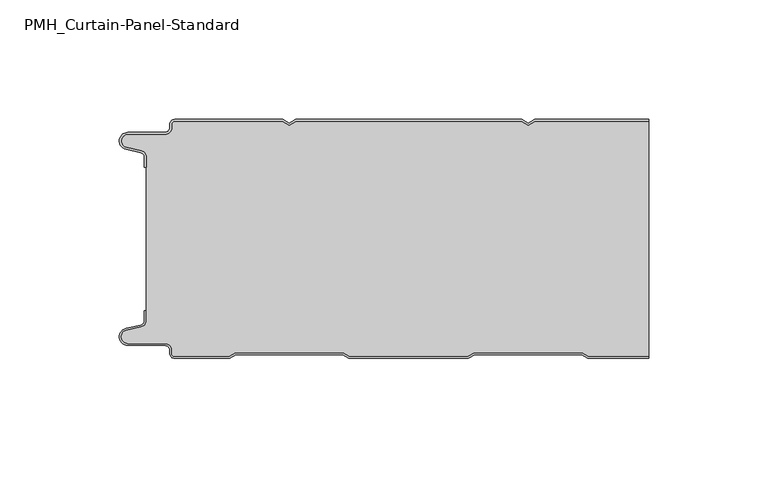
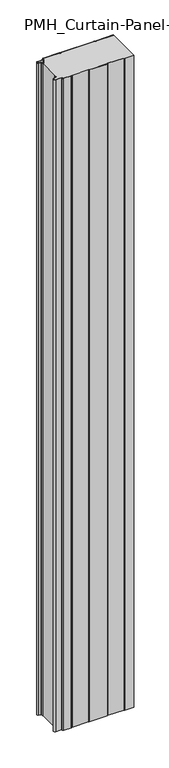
"""IFC4 building model written with IfcOpenShell, lengths in millimetres: plate geometry, PMH_Curtain-Panel-Standard : ACH_PMH_Acoustic-Sectioning-Panel_100M."""

from ifc_helpers import new_model, si_unit, point, frame_2d, origin, origin_with_axes, place, context, project, spatial, polyline, circle_curve, trimmed, segment, composite_curve, outline, extrude, source, transform, mapped, element, save


def pmh_curtain_panel_standard_863052c6(model_context):
    return source(origin(), model_context, "Body", "SweptSolid", [
        extrude(outline(composite_curve([segment(trimmed(circle_curve(frame_2d((-102.0119739, -15.878557)), 2.0), [point((-100.0119739, -15.878557))], [point((-101.5620718, -13.9298169))], True, "CARTESIAN"), True, "CONTINUOUS"), segment(polyline([(-101.5620718, -13.9298169), (-107.7217978, -12.507732)]), True, "CONTINUOUS"), segment(trimmed(circle_curve(frame_2d((-106.9119739, -9.0)), 3.6), [point((-107.7217978, -12.507732))], [point((-106.9119739, -5.4))], False, "CARTESIAN"), True, "CONTINUOUS"), segment(polyline([(-106.9119739, -5.4), (-91.4119739, -5.4)]), True, "CONTINUOUS"), segment(trimmed(circle_curve(frame_2d((-91.4119739, -3.4)), 2.0), [point((-91.4119739, -5.4))], [point((-89.4119739, -3.4))], True, "CARTESIAN"), True, "CONTINUOUS"), segment(polyline([(-89.4119739, -3.4), (-89.4119739, -2.0)]), True, "CONTINUOUS"), segment(trimmed(circle_curve(frame_2d((-87.4119739, -2.0)), 2.0), [point((-89.4119739, -2.0))], [point((-87.4119739, 0.0))], False, "CARTESIAN"), True, "CONTINUOUS"), segment(polyline([(-87.4119739, 0.0), (-42.1119734, 0.0), (-39.4119739, -1.5588455), (-36.7119745, 0.0), (57.8880266, 0.0), (60.5880261, -1.5588455), (63.2880255, 0.0), (111.0119739, 0.0), (111.0119739, -0.8), (63.5023849, -0.8), (60.5880261, -2.482606), (57.6736672, -0.8), (-36.4976151, -0.8), (-39.4119739, -2.482606), (-42.3263328, -0.8), (-87.4119739, -0.8)]), True, "CONTINUOUS"), segment(trimmed(circle_curve(frame_2d((-87.4119739, -2.0)), 1.2), [point((-87.4119739, -0.8))], [point((-88.6119739, -2.0))], True, "CARTESIAN"), True, "CONTINUOUS"), segment(polyline([(-88.6119739, -2.0), (-88.6119739, -3.4)]), True, "CONTINUOUS"), segment(trimmed(circle_curve(frame_2d((-91.4119739, -3.4)), 2.8), [point((-88.6119739, -3.4))], [point((-91.4119739, -6.2))], False, "CARTESIAN"), True, "CONTINUOUS"), segment(polyline([(-91.4119739, -6.2), (-106.9119739, -6.2)]), True, "CONTINUOUS"), segment(trimmed(circle_curve(frame_2d((-106.9119739, -9.0)), 2.8), [point((-106.9119739, -6.2))], [point((-107.541837, -11.7282362))], True, "CARTESIAN"), True, "CONTINUOUS"), segment(polyline([(-107.541837, -11.7282362), (-101.3821109, -13.150321)]), True, "CONTINUOUS"), segment(trimmed(circle_curve(frame_2d((-102.0119739, -15.878557)), 2.8), [point((-101.3821109, -13.150321))], [point((-99.2119739, -15.878557))], False, "CARTESIAN"), True, "CONTINUOUS"), segment(polyline([(-99.2119739, -15.878557), (-99.2119739, -20.0), (-100.0119739, -20.0), (-100.0119739, -15.878557)]), True, "CONTINUOUS")], self_intersect=False)), origin_with_axes(), (0.0, 0.0, 1.0), 1945.7507136),
        extrude(outline(composite_curve([segment(polyline([(-99.2119739, -84.121443), (-99.2119739, -15.8785573)]), True, "CONTINUOUS"), segment(trimmed(circle_curve(frame_2d((-102.0119739, -15.8785573)), 2.8), [point((-99.2119739, -15.8785573))], [point((-101.3821109, -13.1503212))], True, "CARTESIAN"), True, "CONTINUOUS"), segment(polyline([(-101.3821109, -13.1503212), (-107.541837, -11.7282362)]), True, "CONTINUOUS"), segment(trimmed(circle_curve(frame_2d((-106.911974, -9.0)), 2.8), [point((-107.541837, -11.7282362))], [point((-106.911974, -6.2))], False, "CARTESIAN"), True, "CONTINUOUS"), segment(polyline([(-106.911974, -6.2), (-91.411974, -6.2)]), True, "CONTINUOUS"), segment(trimmed(circle_curve(frame_2d((-91.411974, -3.4)), 2.8), [point((-91.411974, -6.2))], [point((-88.611974, -3.4))], True, "CARTESIAN"), True, "CONTINUOUS"), segment(polyline([(-88.611974, -3.4), (-88.611974, -2.0)]), True, "CONTINUOUS"), segment(trimmed(circle_curve(frame_2d((-87.411974, -2.0)), 1.2), [point((-88.611974, -2.0))], [point((-87.411974, -0.8))], False, "CARTESIAN"), True, "CONTINUOUS"), segment(polyline([(-87.411974, -0.8), (-42.3263329, -0.8), (-39.411974, -2.482606), (-36.4976152, -0.8), (57.6736671, -0.8), (60.588026, -2.482606), (63.5023848, -0.8), (111.0119739, -0.8), (111.0119739, -99.2), (85.7985382, -99.2), (83.2004606, -97.7), (37.9717445, -97.7), (35.3736669, -99.2), (-14.2014618, -99.2), (-16.7995394, -97.7), (-62.0282555, -97.7), (-64.6263331, -99.2), (-87.4119739, -99.2)]), True, "CONTINUOUS"), segment(trimmed(circle_curve(frame_2d((-87.4119739, -98.0)), 1.2), [point((-87.4119739, -99.2))], [point((-88.6119739, -98.0))], False, "CARTESIAN"), True, "CONTINUOUS"), segment(polyline([(-88.6119739, -98.0), (-88.6119739, -96.5999998)]), True, "CONTINUOUS"), segment(trimmed(circle_curve(frame_2d((-91.4119739, -96.5999998)), 2.8), [point((-88.6119739, -96.5999998))], [point((-91.4119739, -93.7999998))], True, "CARTESIAN"), True, "CONTINUOUS"), segment(polyline([(-91.4119739, -93.7999998), (-106.9119739, -93.7999998)]), True, "CONTINUOUS"), segment(trimmed(circle_curve(frame_2d((-106.9119739, -91.0)), 2.7999998), [point((-106.9119739, -93.7999998))], [point((-107.5418369, -88.271764))], False, "CARTESIAN"), True, "CONTINUOUS"), segment(polyline([(-107.5418369, -88.271764), (-101.3821109, -86.8496792)]), True, "CONTINUOUS"), segment(trimmed(circle_curve(frame_2d((-102.0119739, -84.121443)), 2.8), [point((-101.3821109, -86.8496792))], [point((-99.2119739, -84.121443))], True, "CARTESIAN"), True, "CONTINUOUS")], self_intersect=False)), origin_with_axes(), (0.0, 0.0, 1.0), 1945.7507136),
        extrude(outline(composite_curve([segment(trimmed(circle_curve(frame_2d((-87.4119739, -98.0)), 2.0), [point((-87.4119739, -100.0))], [point((-89.4119739, -98.0))], False, "CARTESIAN"), True, "CONTINUOUS"), segment(polyline([(-89.4119739, -98.0), (-89.4119739, -96.6)]), True, "CONTINUOUS"), segment(trimmed(circle_curve(frame_2d((-91.4119739, -96.6)), 2.0), [point((-89.4119739, -96.6))], [point((-91.4119739, -94.6))], True, "CARTESIAN"), True, "CONTINUOUS"), segment(polyline([(-91.4119739, -94.6), (-106.9119739, -94.6)]), True, "CONTINUOUS"), segment(trimmed(circle_curve(frame_2d((-106.9119739, -91.0)), 3.6), [point((-106.9119739, -94.6))], [point((-107.7217979, -87.4922678))], False, "CARTESIAN"), True, "CONTINUOUS"), segment(polyline([(-107.7217979, -87.4922678), (-101.5620718, -86.070183)]), True, "CONTINUOUS"), segment(trimmed(circle_curve(frame_2d((-102.0119739, -84.121443)), 2.0), [point((-101.5620718, -86.070183))], [point((-100.0119739, -84.121443))], True, "CARTESIAN"), True, "CONTINUOUS"), segment(polyline([(-100.0119739, -84.121443), (-100.0119739, -80.0), (-99.2119739, -80.0), (-99.2119739, -84.121443)]), True, "CONTINUOUS"), segment(trimmed(circle_curve(frame_2d((-102.0119739, -84.121443)), 2.8), [point((-99.2119739, -84.121443))], [point((-101.3821109, -86.8496792))], False, "CARTESIAN"), True, "CONTINUOUS"), segment(polyline([(-101.3821109, -86.8496792), (-107.5418369, -88.271764)]), True, "CONTINUOUS"), segment(trimmed(circle_curve(frame_2d((-106.9119739, -91.0)), 2.8), [point((-107.5418369, -88.271764))], [point((-106.9119739, -93.8))], True, "CARTESIAN"), True, "CONTINUOUS"), segment(polyline([(-106.9119739, -93.8), (-91.4119739, -93.8)]), True, "CONTINUOUS"), segment(trimmed(circle_curve(frame_2d((-91.4119739, -96.6)), 2.8), [point((-91.4119739, -93.8))], [point((-88.6119739, -96.6))], False, "CARTESIAN"), True, "CONTINUOUS"), segment(polyline([(-88.6119739, -96.6), (-88.6119739, -98.0)]), True, "CONTINUOUS"), segment(trimmed(circle_curve(frame_2d((-87.4119739, -98.0)), 1.2), [point((-88.6119739, -98.0))], [point((-87.4119739, -99.2))], True, "CARTESIAN"), True, "CONTINUOUS"), segment(polyline([(-87.4119739, -99.2), (-64.6263331, -99.2), (-62.0282555, -97.7), (-16.7995394, -97.7), (-14.2014618, -99.2), (35.3736669, -99.2), (37.9717445, -97.7), (83.2004606, -97.7), (85.7985382, -99.2), (111.0119739, -99.2), (111.0119739, -100.0), (85.584179, -100.0), (82.9861014, -98.5), (38.1861037, -98.5), (35.5880261, -100.0), (-14.415821, -100.0), (-17.0138986, -98.5), (-61.8138963, -98.5), (-64.4119739, -100.0), (-87.4119739, -100.0)]), True, "CONTINUOUS")], self_intersect=False)), origin_with_axes(), (0.0, 0.0, 1.0), 1945.7507136),
    ])


if __name__ == "__main__":
    model = new_model("IFC4")
    model_context = context("Model", 3, world=origin())
    ifc_project = project(units=[si_unit("LENGTHUNIT", "METRE", prefix="MILLI")], contexts=[model_context])
    site = spatial("IfcSite", under=ifc_project)
    building = spatial("IfcBuilding", under=site)
    placement = place(None, origin())
    pmh_curtain_panel_standard_shape = pmh_curtain_panel_standard_863052c6(model_context)
    element("IfcPlate", 1, ObjectType="PMH_Curtain-Panel-Standard : ACH_PMH_Acoustic-Sectioning-Panel_100M", at=placement, inside=building, context=model_context, shape_type="MappedRepresentation", body=[
        mapped(pmh_curtain_panel_standard_shape, transform((0.0, 0.0, 0.0), x_axis=(1.0, 0.0, 0.0), y_axis=(0.0, 1.0, 0.0), z_axis=(0.0, 0.0, 1.0))),
    ])
    save(model, "model.ifc")
